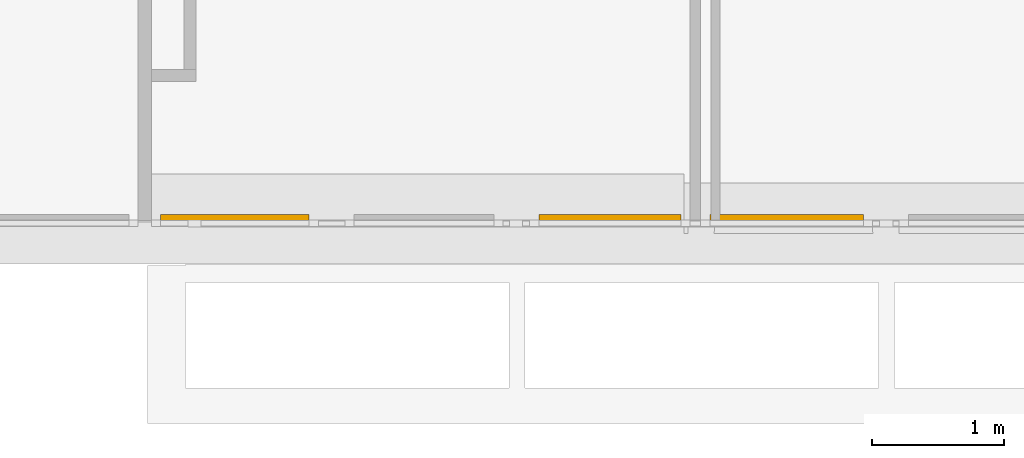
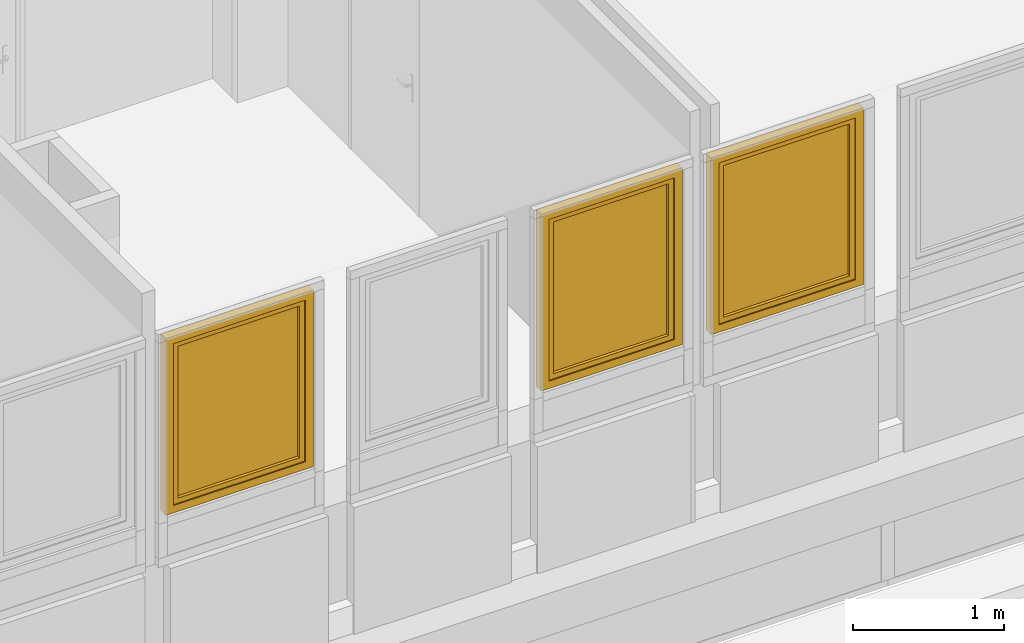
# One storey, part 90 of 97: 3 windows, 3 elements without a shape of their own.
"""IFC4 building model written with IfcOpenShell, lengths in metres."""

from ifc_helpers import new_model, entity, si_unit, converted_unit, derived_unit, direction, frame, origin, place, context, subcontext, project, spatial, polygons, source, transform, mapped, material, material_list, constituent, constituent_set, type_object, type_shapes, element, aggregate, save


model = new_model("IFC4")

# Units and contexts
model_context = context("Model", 3, precision=1e-05, world=origin(), true_north=direction((6.12303176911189e-17, 1.0)))
body_context = subcontext(model_context, "Body", "Model", "MODEL_VIEW")
ifc_project = project(units=[si_unit("LENGTHUNIT", "METRE"), si_unit("AREAUNIT", "SQUARE_METRE"), si_unit("VOLUMEUNIT", "CUBIC_METRE"), converted_unit("PLANEANGLEUNIT", "DEGREE", entity("IfcRatioMeasure", 0.0174532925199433), si_unit("PLANEANGLEUNIT", "RADIAN"), dimensions=[0, 0, 0, 0, 0, 0, 0]), si_unit("MASSUNIT", "GRAM", prefix="KILO"), derived_unit("MASSDENSITYUNIT", [(si_unit("MASSUNIT", "GRAM", prefix="KILO"), 1), (si_unit("LENGTHUNIT", "METRE"), -3)]), derived_unit("MOMENTOFINERTIAUNIT", [(si_unit("LENGTHUNIT", "METRE"), 4)]), si_unit("TIMEUNIT", "SECOND"), si_unit("FREQUENCYUNIT", "HERTZ"), si_unit("THERMODYNAMICTEMPERATUREUNIT", "DEGREE_CELSIUS"), derived_unit("THERMALTRANSMITTANCEUNIT", [(si_unit("MASSUNIT", "GRAM", prefix="KILO"), 1), (si_unit("THERMODYNAMICTEMPERATUREUNIT", "KELVIN"), -1), (si_unit("TIMEUNIT", "SECOND"), -3)]), derived_unit("VOLUMETRICFLOWRATEUNIT", [(si_unit("LENGTHUNIT", "METRE"), 3), (si_unit("TIMEUNIT", "SECOND"), -1)]), si_unit("ELECTRICCURRENTUNIT", "AMPERE"), si_unit("ELECTRICVOLTAGEUNIT", "VOLT"), si_unit("POWERUNIT", "WATT"), si_unit("FORCEUNIT", "NEWTON", prefix="KILO"), si_unit("ILLUMINANCEUNIT", "LUX"), si_unit("LUMINOUSFLUXUNIT", "LUMEN"), si_unit("LUMINOUSINTENSITYUNIT", "CANDELA"), derived_unit("USERDEFINED", [(si_unit("MASSUNIT", "GRAM", prefix="KILO"), -1), (si_unit("LENGTHUNIT", "METRE"), -2), (si_unit("TIMEUNIT", "SECOND"), 3), (si_unit("LUMINOUSFLUXUNIT", "LUMEN"), 1)]), derived_unit("LINEARVELOCITYUNIT", [(si_unit("LENGTHUNIT", "METRE"), 1), (si_unit("TIMEUNIT", "SECOND"), -1)]), si_unit("PRESSUREUNIT", "PASCAL"), derived_unit("USERDEFINED", [(si_unit("LENGTHUNIT", "METRE"), -2), (si_unit("MASSUNIT", "GRAM", prefix="KILO"), 1), (si_unit("TIMEUNIT", "SECOND"), -2)]), derived_unit("LINEARFORCEUNIT", [(si_unit("MASSUNIT", "GRAM", prefix="KILO"), 1), (si_unit("LENGTHUNIT", "METRE"), 1), (si_unit("TIMEUNIT", "SECOND"), -2), (si_unit("LENGTHUNIT", "METRE"), -1)]), derived_unit("PLANARFORCEUNIT", [(si_unit("MASSUNIT", "GRAM", prefix="KILO"), 1), (si_unit("LENGTHUNIT", "METRE"), 1), (si_unit("TIMEUNIT", "SECOND"), -2), (si_unit("LENGTHUNIT", "METRE"), -2)])], contexts=[model_context])

# Site, building, storey
site_placement = place(None, origin())
site = spatial("IfcSite", under=ifc_project, at=site_placement, Name="Default", CompositionType="ELEMENT")
building_placement = place(site_placement, origin())
building = spatial("IfcBuilding", under=site, at=building_placement, Name="HOTEL CONSULAIRE BOULOGNE SUR MER", CompositionType="ELEMENT")
storey_placement = place(building_placement, frame((0.0, 0.0, 3.62152697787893)))
storey = spatial("IfcBuildingStorey", under=building, at=storey_placement, Name="Niveau 1", CompositionType="ELEMENT", Elevation=3.62152697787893)

# Curtain wall, window
curtain_wall_type = type_object("IfcCurtainWallType", Name="Mur-rideau:Simple panneau", PredefinedType="NOTDEFINED")
curtain_wall_1_placement = place(storey_placement, frame((0.0, 0.0, -3.62152697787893)))
curtain_wall_1 = element("IfcCurtainWall", 1, at=curtain_wall_1_placement, inside=storey, type_object=curtain_wall_type, Name="Mur-rideau:Simple panneau", ObjectType="Mur-rideau:Simple panneau", PredefinedType="NOTDEFINED")
ifc_material_1 = material(Name="PVC - Blanc", Category="Plastique")
ifc_constituent_1 = constituent(ifc_material_1, Name="PVC - Blanc", Category="Matériaux")
ifc_material_2 = material(Name="Fenêtre - Vitrage", Category="Verre")
ifc_constituent_2 = constituent(ifc_material_2, Name="Fenêtre - Vitrage", Category="Matériaux")
ifc_constituent_set_1 = constituent_set(constituents=[ifc_constituent_1, ifc_constituent_2], Name="MaterialConstituentSet")
ifc_material_list_1 = material_list([ifc_material_1, ifc_material_1])
window_type_1 = type_object("IfcWindowType", Name="MR 1 Vantail:MR 1 Vantail", PartitioningType="NOTDEFINED", PredefinedType="WINDOW", material=ifc_material_list_1)
shared_shape_1 = source(origin(), body_context, "Body", "Tessellation", [
    polygons([(-0.493507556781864, -0.0492408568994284, 0.472033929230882), (-0.482215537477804, -0.0492408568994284, 0.472033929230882), (-0.480827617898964, -0.0492408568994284, 0.470646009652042), (-0.480827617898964, -0.0492408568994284, 0.459332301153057), (-0.482193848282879, -0.0492408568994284, 0.457966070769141), (-0.493529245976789, -0.0492408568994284, 0.457966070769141), (-0.494895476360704, -0.0492408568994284, 0.459332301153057), (-0.494895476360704, -0.0492408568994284, 0.470646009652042), (-0.494895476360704, -0.0615795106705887, 0.470646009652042), (-0.493507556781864, -0.0621544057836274, 0.472033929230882), (-0.494895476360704, -0.0568932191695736, 0.459332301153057), (-0.494895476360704, -0.063573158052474, 0.452652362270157), (-0.494895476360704, -0.0635731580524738, 0.370000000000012), (-0.494895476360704, -0.0748868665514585, 0.370000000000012), (-0.494895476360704, -0.0748868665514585, 0.457338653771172), (-0.493529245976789, -0.0563273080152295, 0.457966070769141), (-0.482193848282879, -0.0563273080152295, 0.457966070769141), (-0.480827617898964, -0.0568932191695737, 0.459332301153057), (-0.480827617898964, -0.0615795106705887, 0.470646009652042), (-0.480827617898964, -0.0748868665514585, 0.457338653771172), (-0.480827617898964, -0.0748868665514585, 0.370000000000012), (-0.480827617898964, -0.0635731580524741, 0.370000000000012), (-0.480827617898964, -0.0635731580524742, 0.452652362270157), (-0.482215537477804, -0.0621544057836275, 0.472033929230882), (-0.493507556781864, -0.0762747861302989, 0.457913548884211), (-0.493529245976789, -0.0622069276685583, 0.452086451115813), (-0.482193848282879, -0.0622069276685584, 0.452086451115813), (-0.482215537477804, -0.0762747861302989, 0.457913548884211), (-0.493507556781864, -0.0762747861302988, 0.370000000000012), (-0.493529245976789, -0.0622069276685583, 0.370000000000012), (-0.482193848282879, -0.0622069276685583, 0.370000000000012), (-0.482215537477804, -0.0762747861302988, 0.370000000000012)], [[[6, 7, 8, 1, 2, 3, 4, 5]], [[30, 26, 27, 31]], [[9, 10, 1, 8]], [[11, 12, 13, 14, 15, 9, 8, 7]], [[16, 11, 7, 6]], [[16, 6, 5, 17]], [[31, 22, 21, 32, 29, 14, 13, 30]], [[17, 5, 4, 18]], [[3, 19, 20, 21, 22, 23, 18, 4]], [[19, 3, 2, 24]], [[24, 2, 1, 10]], [[15, 25, 10, 9]], [[26, 12, 11, 16]], [[27, 26, 16, 17]], [[27, 17, 18, 23]], [[20, 19, 24, 28]], [[28, 24, 10, 25]], [[29, 25, 15, 14]], [[13, 12, 26, 30]], [[22, 31, 27, 23]], [[32, 21, 20, 28]], [[32, 28, 25, 29]]], closed=True),
    polygons([(-0.494861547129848, -0.0432408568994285, 0.490000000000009), (-0.480861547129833, -0.0432408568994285, 0.490000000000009), (-0.475861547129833, -0.0432408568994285, 0.48500000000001), (-0.475861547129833, -0.0432408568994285, 0.414999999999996), (-0.48086154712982, -0.0432408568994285, 0.410000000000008), (-0.494861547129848, -0.0432408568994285, 0.410000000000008), (-0.499861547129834, -0.0432408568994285, 0.414999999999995), (-0.499861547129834, -0.0432408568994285, 0.48500000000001), (-0.494861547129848, -0.0492408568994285, 0.490000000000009), (-0.499861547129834, -0.0492408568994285, 0.48500000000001), (-0.499861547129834, -0.0492408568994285, 0.414999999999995), (-0.494861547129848, -0.0492408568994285, 0.410000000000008), (-0.48086154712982, -0.0492408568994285, 0.410000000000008), (-0.475861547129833, -0.0492408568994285, 0.414999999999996), (-0.475861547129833, -0.0492408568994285, 0.48500000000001), (-0.480861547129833, -0.0492408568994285, 0.490000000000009)], [[[2, 3, 4, 5, 6, 7, 8, 1]], [[13, 14, 15, 16, 9, 10, 11, 12]], [[9, 1, 8, 10]], [[10, 8, 7, 11]], [[11, 7, 6, 12]], [[12, 6, 5, 13]], [[13, 5, 4, 14]], [[15, 14, 4, 3]], [[15, 3, 2, 16]], [[16, 2, 1, 9]]], closed=True),
    polygons([(0.462861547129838, -0.0192408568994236, 1.32586048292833), (-0.462861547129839, -0.0192408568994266, 1.32586048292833), (-0.462861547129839, -0.0192408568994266, 0.1), (0.462861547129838, -0.0192408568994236, 0.1), (0.462861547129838, -0.00724085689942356, 1.32586048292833), (0.462861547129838, -0.00724085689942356, 0.1), (-0.462861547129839, -0.00724085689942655, 0.1), (-0.462861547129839, -0.00724085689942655, 1.32586048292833)], [[[4, 1, 2, 3]], [[7, 8, 5, 6]], [[2, 1, 5, 8]], [[3, 2, 8, 7]], [[4, 3, 7, 6]], [[1, 4, 6, 5]]], closed=True),
    polygons([(-0.512861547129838, 0.0167591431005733, 1.37586048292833), (-0.512861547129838, -0.043240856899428, 1.37586048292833), (0.512861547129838, -0.043240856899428, 1.37586048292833), (0.512861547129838, 0.0167591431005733, 1.37586048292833), (-0.462861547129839, -0.043240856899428, 1.32586048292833), (-0.462861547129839, 0.0167591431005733, 1.32586048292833), (0.462861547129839, 0.0167591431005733, 1.32586048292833), (0.462861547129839, -0.043240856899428, 1.32586048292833), (0.512861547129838, -0.043240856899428, 0.0500000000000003), (0.512861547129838, 0.0167591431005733, 0.0500000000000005), (0.462861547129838, 0.0167591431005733, 0.1), (0.462861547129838, -0.043240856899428, 0.1), (-0.512861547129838, -0.043240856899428, 0.0500000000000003), (-0.512861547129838, 0.0167591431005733, 0.0500000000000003), (-0.462861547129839, 0.0167591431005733, 0.1), (-0.462861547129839, -0.043240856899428, 0.1)], [[[1, 2, 3, 4]], [[12, 11, 15, 16]], [[5, 6, 7, 8]], [[10, 9, 13, 14]], [[4, 3, 9, 10]], [[16, 15, 6, 5]], [[8, 7, 11, 12]], [[14, 13, 2, 1]], [[9, 3, 2, 13], [16, 5, 8, 12]], [[14, 1, 4, 10], [11, 7, 6, 15]]], closed=True),
    polygons([(-0.502861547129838, 0.016759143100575, 1.36586048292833), (-0.502861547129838, 0.0267591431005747, 1.36586048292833), (0.502861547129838, 0.0267591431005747, 1.36586048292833), (0.502861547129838, 0.016759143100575, 1.36586048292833), (-0.512861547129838, -0.0432408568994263, 1.37586048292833), (-0.512861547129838, 0.016759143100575, 1.37586048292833), (0.512861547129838, 0.016759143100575, 1.37586048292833), (0.512861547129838, -0.0432408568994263, 1.37586048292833), (-0.562861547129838, 0.0267591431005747, 1.42586048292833), (-0.562861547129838, -0.0432408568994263, 1.42586048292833), (0.562861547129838, -0.0432408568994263, 1.42586048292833), (0.562861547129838, 0.0267591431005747, 1.42586048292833), (0.502861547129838, 0.0267591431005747, 0.0600000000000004), (0.502861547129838, 0.016759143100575, 0.0600000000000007), (0.512861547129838, 0.016759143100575, 0.0500000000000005), (0.512861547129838, -0.0432408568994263, 0.0500000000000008), (0.562861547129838, -0.0432408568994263, 5.41433564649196e-16), (0.562861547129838, 0.0267591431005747, 5.41433564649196e-16), (-0.502861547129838, 0.0267591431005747, 0.0600000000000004), (-0.502861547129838, 0.016759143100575, 0.0600000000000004), (-0.512861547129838, 0.016759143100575, 0.0500000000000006), (-0.512861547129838, -0.0432408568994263, 0.0500000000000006), (-0.562861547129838, -0.0432408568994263, 5.41433564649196e-16), (-0.562861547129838, 0.0267591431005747, 5.41433564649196e-16)], [[[1, 2, 3, 4]], [[5, 6, 7, 8]], [[18, 17, 23, 24]], [[9, 10, 11, 12]], [[14, 13, 19, 20]], [[16, 15, 21, 22]], [[4, 3, 13, 14]], [[8, 7, 15, 16]], [[24, 23, 10, 9]], [[12, 11, 17, 18]], [[20, 19, 2, 1]], [[22, 21, 6, 5]], [[24, 9, 12, 18], [13, 3, 2, 19]], [[15, 7, 6, 21], [20, 1, 4, 14]], [[17, 11, 10, 23], [22, 5, 8, 16]]], closed=True),
])
type_shapes(window_type_1, [shared_shape_1])
window_1_placement = place(curtain_wall_1_placement, frame((-4.77428152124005, -29.5501047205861, 4.79613951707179), z_axis=(0.0, 0.0, 1.0), x_axis=(-1.0, 0.0, 0.0)))
window_1 = element("IfcWindow", 2, at=window_1_placement, type_object=window_type_1, material=ifc_constituent_set_1, Name="MR 1 Vantail:MR 1 Vantail", ObjectType="MR 1 Vantail:MR 1 Vantail", OverallHeight=1.42586048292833, OverallWidth=1.12572309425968, PartitioningType="NOTDEFINED", PredefinedType="WINDOW", context=body_context, shape_type="MappedRepresentation", body=[
    mapped(shared_shape_1, transform((0.0, 0.0, 0.0), scale=1.0)),
])
aggregate(curtain_wall_1, [window_1])

curtain_wall_2_placement = place(storey_placement, frame((0.0, 0.0, -3.62152697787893)))
curtain_wall_2 = element("IfcCurtainWall", 3, at=curtain_wall_2_placement, inside=storey, type_object=curtain_wall_type, Name="Mur-rideau:Simple panneau", ObjectType="Mur-rideau:Simple panneau", PredefinedType="NOTDEFINED")
ifc_constituent_3 = constituent(ifc_material_1, Name="PVC - Blanc", Category="Matériaux")
ifc_constituent_4 = constituent(ifc_material_2, Name="Fenêtre - Vitrage", Category="Matériaux")
ifc_constituent_set_2 = constituent_set(constituents=[ifc_constituent_3, ifc_constituent_4], Name="MaterialConstituentSet")
ifc_material_list_2 = material_list([ifc_material_1, ifc_material_1])
window_type_2 = type_object("IfcWindowType", Name="MR 1 Vantail:MR 1 Vantail", PartitioningType="NOTDEFINED", PredefinedType="WINDOW", material=ifc_material_list_2)
shared_shape_2 = source(origin(), body_context, "Body", "Tessellation", [
    polygons([(-0.469283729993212, -0.0492408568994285, 0.472033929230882), (-0.457991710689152, -0.0492408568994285, 0.472033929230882), (-0.456603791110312, -0.0492408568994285, 0.470646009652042), (-0.456603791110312, -0.0492408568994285, 0.459332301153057), (-0.457970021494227, -0.0492408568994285, 0.457966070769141), (-0.469305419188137, -0.0492408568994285, 0.457966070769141), (-0.470671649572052, -0.0492408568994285, 0.459332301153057), (-0.470671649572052, -0.0492408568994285, 0.470646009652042), (-0.470671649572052, -0.0615795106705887, 0.470646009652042), (-0.469283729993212, -0.0621544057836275, 0.472033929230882), (-0.470671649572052, -0.0568932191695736, 0.459332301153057), (-0.470671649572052, -0.063573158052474, 0.452652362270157), (-0.470671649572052, -0.0635731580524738, 0.370000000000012), (-0.470671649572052, -0.0748868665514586, 0.370000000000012), (-0.470671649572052, -0.0748868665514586, 0.457338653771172), (-0.469305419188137, -0.0563273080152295, 0.457966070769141), (-0.457970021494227, -0.0563273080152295, 0.457966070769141), (-0.456603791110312, -0.0568932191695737, 0.459332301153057), (-0.456603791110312, -0.0615795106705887, 0.470646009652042), (-0.456603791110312, -0.0748868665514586, 0.457338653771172), (-0.456603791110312, -0.0748868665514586, 0.370000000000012), (-0.456603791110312, -0.0635731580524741, 0.370000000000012), (-0.456603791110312, -0.0635731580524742, 0.452652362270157), (-0.457991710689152, -0.0621544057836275, 0.472033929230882), (-0.469283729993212, -0.0762747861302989, 0.457913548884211), (-0.469305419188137, -0.0622069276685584, 0.452086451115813), (-0.457970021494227, -0.0622069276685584, 0.452086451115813), (-0.457991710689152, -0.0762747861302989, 0.457913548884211), (-0.469283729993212, -0.0762747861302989, 0.370000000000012), (-0.469305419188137, -0.0622069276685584, 0.370000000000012), (-0.457970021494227, -0.0622069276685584, 0.370000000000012), (-0.457991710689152, -0.0762747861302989, 0.370000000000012)], [[[6, 7, 8, 1, 2, 3, 4, 5]], [[30, 26, 27, 31]], [[9, 10, 1, 8]], [[11, 12, 13, 14, 15, 9, 8, 7]], [[16, 11, 7, 6]], [[16, 6, 5, 17]], [[31, 22, 21, 32, 29, 14, 13, 30]], [[17, 5, 4, 18]], [[3, 19, 20, 21, 22, 23, 18, 4]], [[19, 3, 2, 24]], [[24, 2, 1, 10]], [[15, 25, 10, 9]], [[26, 12, 11, 16]], [[27, 26, 16, 17]], [[27, 17, 18, 23]], [[20, 19, 24, 28]], [[28, 24, 10, 25]], [[29, 25, 15, 14]], [[13, 12, 26, 30]], [[22, 31, 27, 23]], [[32, 21, 20, 28]], [[32, 28, 25, 29]]], closed=True),
    polygons([(-0.470637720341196, -0.0432408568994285, 0.490000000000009), (-0.456637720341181, -0.0432408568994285, 0.490000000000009), (-0.451637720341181, -0.0432408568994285, 0.48500000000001), (-0.451637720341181, -0.0432408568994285, 0.414999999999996), (-0.456637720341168, -0.0432408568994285, 0.410000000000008), (-0.470637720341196, -0.0432408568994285, 0.410000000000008), (-0.475637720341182, -0.0432408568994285, 0.414999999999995), (-0.475637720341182, -0.0432408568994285, 0.48500000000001), (-0.470637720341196, -0.0492408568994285, 0.490000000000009), (-0.475637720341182, -0.0492408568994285, 0.48500000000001), (-0.475637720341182, -0.0492408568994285, 0.414999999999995), (-0.470637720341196, -0.0492408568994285, 0.410000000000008), (-0.456637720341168, -0.0492408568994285, 0.410000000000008), (-0.451637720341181, -0.0492408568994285, 0.414999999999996), (-0.451637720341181, -0.0492408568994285, 0.48500000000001), (-0.456637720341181, -0.0492408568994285, 0.490000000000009)], [[[2, 3, 4, 5, 6, 7, 8, 1]], [[13, 14, 15, 16, 9, 10, 11, 12]], [[9, 1, 8, 10]], [[10, 8, 7, 11]], [[11, 7, 6, 12]], [[12, 6, 5, 13]], [[13, 5, 4, 14]], [[15, 14, 4, 3]], [[15, 3, 2, 16]], [[16, 2, 1, 9]]], closed=True),
    polygons([(0.438637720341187, -0.0192408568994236, 1.32586048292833), (-0.438637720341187, -0.0192408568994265, 1.32586048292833), (-0.438637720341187, -0.0192408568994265, 0.0999999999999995), (0.438637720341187, -0.0192408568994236, 0.0999999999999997), (0.438637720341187, -0.00724085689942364, 1.32586048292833), (0.438637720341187, -0.00724085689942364, 0.0999999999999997), (-0.438637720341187, -0.00724085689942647, 0.0999999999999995), (-0.438637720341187, -0.00724085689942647, 1.32586048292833)], [[[4, 1, 2, 3]], [[7, 8, 5, 6]], [[2, 1, 5, 8]], [[3, 2, 8, 7]], [[4, 3, 7, 6]], [[1, 4, 6, 5]]], closed=True),
    polygons([(-0.488637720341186, 0.0167591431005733, 1.37586048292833), (-0.488637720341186, -0.043240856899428, 1.37586048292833), (0.488637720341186, -0.043240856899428, 1.37586048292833), (0.488637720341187, 0.0167591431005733, 1.37586048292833), (-0.438637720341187, -0.043240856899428, 1.32586048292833), (-0.438637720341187, 0.0167591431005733, 1.32586048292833), (0.438637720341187, 0.0167591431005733, 1.32586048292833), (0.438637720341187, -0.043240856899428, 1.32586048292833), (0.488637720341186, -0.043240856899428, 0.0500000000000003), (0.488637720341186, 0.0167591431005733, 0.0500000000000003), (0.438637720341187, 0.0167591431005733, 0.0999999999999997), (0.438637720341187, -0.043240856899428, 0.0999999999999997), (-0.488637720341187, -0.043240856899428, 0.0500000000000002), (-0.488637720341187, 0.0167591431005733, 0.0500000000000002), (-0.438637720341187, 0.0167591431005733, 0.0999999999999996), (-0.438637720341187, -0.043240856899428, 0.0999999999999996)], [[[1, 2, 3, 4]], [[12, 11, 15, 16]], [[5, 6, 7, 8]], [[10, 9, 13, 14]], [[4, 3, 9, 10]], [[16, 15, 6, 5]], [[8, 7, 11, 12]], [[14, 13, 2, 1]], [[9, 3, 2, 13], [16, 5, 8, 12]], [[14, 1, 4, 10], [11, 7, 6, 15]]], closed=True),
    polygons([(-0.478637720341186, 0.016759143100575, 1.36586048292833), (-0.478637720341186, 0.0267591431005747, 1.36586048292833), (0.478637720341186, 0.0267591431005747, 1.36586048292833), (0.478637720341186, 0.016759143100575, 1.36586048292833), (-0.488637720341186, -0.0432408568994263, 1.37586048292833), (-0.488637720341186, 0.016759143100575, 1.37586048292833), (0.488637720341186, 0.016759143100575, 1.37586048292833), (0.488637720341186, -0.0432408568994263, 1.37586048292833), (-0.538637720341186, 0.0267591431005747, 1.42586048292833), (-0.538637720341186, -0.0432408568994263, 1.42586048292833), (0.538637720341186, -0.0432408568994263, 1.42586048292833), (0.538637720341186, 0.0267591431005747, 1.42586048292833), (0.478637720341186, 0.0267591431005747, 0.0600000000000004), (0.478637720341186, 0.016759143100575, 0.0600000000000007), (0.488637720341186, 0.016759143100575, 0.0500000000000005), (0.488637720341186, -0.0432408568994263, 0.0500000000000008), (0.538637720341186, -0.0432408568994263, 5.41433564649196e-16), (0.538637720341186, 0.0267591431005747, 5.41433564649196e-16), (-0.478637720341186, 0.0267591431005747, 0.0600000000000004), (-0.478637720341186, 0.016759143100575, 0.0600000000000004), (-0.488637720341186, 0.016759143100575, 0.0500000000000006), (-0.488637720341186, -0.0432408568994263, 0.0500000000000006), (-0.538637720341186, -0.0432408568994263, 5.41433564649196e-16), (-0.538637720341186, 0.0267591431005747, 5.41433564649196e-16)], [[[1, 2, 3, 4]], [[5, 6, 7, 8]], [[18, 17, 23, 24]], [[9, 10, 11, 12]], [[14, 13, 19, 20]], [[16, 15, 21, 22]], [[4, 3, 13, 14]], [[8, 7, 15, 16]], [[24, 23, 10, 9]], [[12, 11, 17, 18]], [[20, 19, 2, 1]], [[22, 21, 6, 5]], [[24, 9, 12, 18], [13, 3, 2, 19]], [[15, 7, 6, 21], [20, 1, 4, 14]], [[17, 11, 10, 23], [22, 5, 8, 16]]], closed=True),
])
type_shapes(window_type_2, [shared_shape_2])
window_2_placement = place(curtain_wall_2_placement, frame((-1.93278225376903, -29.5501047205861, 4.79613951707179), z_axis=(0.0, 0.0, 1.0), x_axis=(-1.0, 0.0, 0.0)))
window_2 = element("IfcWindow", 4, at=window_2_placement, type_object=window_type_2, material=ifc_constituent_set_2, Name="MR 1 Vantail:MR 1 Vantail", ObjectType="MR 1 Vantail:MR 1 Vantail", OverallHeight=1.42586048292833, OverallWidth=1.07727544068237, PartitioningType="NOTDEFINED", PredefinedType="WINDOW", context=body_context, shape_type="MappedRepresentation", body=[
    mapped(shared_shape_2, transform((0.0, 0.0, 0.0), scale=1.0)),
])
aggregate(curtain_wall_2, [window_2])

curtain_wall_3_placement = place(storey_placement, frame((0.0, 0.0, -3.62152697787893)))
curtain_wall_3 = element("IfcCurtainWall", 5, at=curtain_wall_3_placement, inside=storey, type_object=curtain_wall_type, Name="Mur-rideau:Simple panneau", ObjectType="Mur-rideau:Simple panneau", PredefinedType="NOTDEFINED")
ifc_constituent_5 = constituent(ifc_material_1, Name="PVC - Blanc", Category="Matériaux")
ifc_constituent_6 = constituent(ifc_material_2, Name="Fenêtre - Vitrage", Category="Matériaux")
ifc_constituent_set_3 = constituent_set(constituents=[ifc_constituent_5, ifc_constituent_6], Name="MaterialConstituentSet")
ifc_material_list_3 = material_list([ifc_material_1, ifc_material_1])
window_type_3 = type_object("IfcWindowType", Name="MR 1 Vantail:MR 1 Vantail", PartitioningType="NOTDEFINED", PredefinedType="WINDOW", material=ifc_material_list_3)
shared_shape_3 = source(origin(), body_context, "Body", "Tessellation", [
    polygons([(-0.512008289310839, -0.0492408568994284, 0.472033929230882), (-0.500716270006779, -0.0492408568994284, 0.472033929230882), (-0.499328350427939, -0.0492408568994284, 0.470646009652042), (-0.499328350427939, -0.0492408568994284, 0.459332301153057), (-0.500694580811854, -0.0492408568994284, 0.457966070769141), (-0.512029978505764, -0.0492408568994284, 0.457966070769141), (-0.513396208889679, -0.0492408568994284, 0.459332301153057), (-0.513396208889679, -0.0492408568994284, 0.470646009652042), (-0.513396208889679, -0.0615795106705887, 0.470646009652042), (-0.512008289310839, -0.0621544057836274, 0.472033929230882), (-0.513396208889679, -0.0568932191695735, 0.459332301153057), (-0.513396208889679, -0.0635731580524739, 0.452652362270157), (-0.513396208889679, -0.0635731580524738, 0.370000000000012), (-0.513396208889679, -0.0748868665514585, 0.370000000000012), (-0.513396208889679, -0.0748868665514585, 0.457338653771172), (-0.512029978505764, -0.0563273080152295, 0.457966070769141), (-0.500694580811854, -0.0563273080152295, 0.457966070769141), (-0.499328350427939, -0.0568932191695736, 0.459332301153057), (-0.499328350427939, -0.0615795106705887, 0.470646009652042), (-0.499328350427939, -0.0748868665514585, 0.457338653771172), (-0.499328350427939, -0.0748868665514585, 0.370000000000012), (-0.499328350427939, -0.063573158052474, 0.370000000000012), (-0.499328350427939, -0.0635731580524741, 0.452652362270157), (-0.500716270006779, -0.0621544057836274, 0.472033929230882), (-0.512008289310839, -0.0762747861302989, 0.457913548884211), (-0.512029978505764, -0.0622069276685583, 0.452086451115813), (-0.500694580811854, -0.0622069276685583, 0.452086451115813), (-0.500716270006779, -0.0762747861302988, 0.457913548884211), (-0.512008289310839, -0.0762747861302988, 0.370000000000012), (-0.512029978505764, -0.0622069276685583, 0.370000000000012), (-0.500694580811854, -0.0622069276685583, 0.370000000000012), (-0.500716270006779, -0.0762747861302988, 0.370000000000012)], [[[6, 7, 8, 1, 2, 3, 4, 5]], [[30, 26, 27, 31]], [[9, 10, 1, 8]], [[11, 12, 13, 14, 15, 9, 8, 7]], [[16, 11, 7, 6]], [[16, 6, 5, 17]], [[31, 22, 21, 32, 29, 14, 13, 30]], [[17, 5, 4, 18]], [[3, 19, 20, 21, 22, 23, 18, 4]], [[19, 3, 2, 24]], [[24, 2, 1, 10]], [[15, 25, 10, 9]], [[26, 12, 11, 16]], [[27, 26, 16, 17]], [[27, 17, 18, 23]], [[20, 19, 24, 28]], [[28, 24, 10, 25]], [[29, 25, 15, 14]], [[13, 12, 26, 30]], [[22, 31, 27, 23]], [[32, 21, 20, 28]], [[32, 28, 25, 29]]], closed=True),
    polygons([(-0.513362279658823, -0.0432408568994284, 0.490000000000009), (-0.499362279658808, -0.0432408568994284, 0.490000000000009), (-0.494362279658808, -0.0432408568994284, 0.48500000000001), (-0.494362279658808, -0.0432408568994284, 0.414999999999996), (-0.499362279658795, -0.0432408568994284, 0.410000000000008), (-0.513362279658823, -0.0432408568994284, 0.410000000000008), (-0.518362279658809, -0.0432408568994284, 0.414999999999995), (-0.518362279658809, -0.0432408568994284, 0.48500000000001), (-0.513362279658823, -0.0492408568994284, 0.490000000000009), (-0.518362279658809, -0.0492408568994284, 0.48500000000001), (-0.518362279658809, -0.0492408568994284, 0.414999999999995), (-0.513362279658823, -0.0492408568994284, 0.410000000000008), (-0.499362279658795, -0.0492408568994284, 0.410000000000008), (-0.494362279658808, -0.0492408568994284, 0.414999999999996), (-0.494362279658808, -0.0492408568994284, 0.48500000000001), (-0.499362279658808, -0.0492408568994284, 0.490000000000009)], [[[2, 3, 4, 5, 6, 7, 8, 1]], [[13, 14, 15, 16, 9, 10, 11, 12]], [[9, 1, 8, 10]], [[10, 8, 7, 11]], [[11, 7, 6, 12]], [[12, 6, 5, 13]], [[13, 5, 4, 14]], [[15, 14, 4, 3]], [[15, 3, 2, 16]], [[16, 2, 1, 9]]], closed=True),
    polygons([(0.481362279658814, -0.0192408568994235, 1.32586048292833), (-0.481362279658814, -0.0192408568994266, 1.32586048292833), (-0.481362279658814, -0.0192408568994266, 0.0999999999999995), (0.481362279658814, -0.0192408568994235, 0.0999999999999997), (0.481362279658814, -0.0072408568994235, 1.32586048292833), (0.481362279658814, -0.0072408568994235, 0.0999999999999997), (-0.481362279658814, -0.00724085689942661, 0.0999999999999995), (-0.481362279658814, -0.00724085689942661, 1.32586048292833)], [[[4, 1, 2, 3]], [[7, 8, 5, 6]], [[2, 1, 5, 8]], [[3, 2, 8, 7]], [[4, 3, 7, 6]], [[1, 4, 6, 5]]], closed=True),
    polygons([(-0.531362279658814, 0.0167591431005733, 1.37586048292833), (-0.531362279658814, -0.043240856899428, 1.37586048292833), (0.531362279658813, -0.043240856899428, 1.37586048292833), (0.531362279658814, 0.0167591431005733, 1.37586048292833), (-0.481362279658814, -0.043240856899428, 1.32586048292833), (-0.481362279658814, 0.0167591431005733, 1.32586048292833), (0.481362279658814, 0.0167591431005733, 1.32586048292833), (0.481362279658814, -0.043240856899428, 1.32586048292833), (0.531362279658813, -0.043240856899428, 0.0500000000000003), (0.531362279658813, 0.0167591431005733, 0.0500000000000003), (0.481362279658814, 0.0167591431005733, 0.0999999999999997), (0.481362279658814, -0.043240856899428, 0.0999999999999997), (-0.531362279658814, -0.043240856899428, 0.0500000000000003), (-0.531362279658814, 0.0167591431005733, 0.0500000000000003), (-0.481362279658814, 0.0167591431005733, 0.0999999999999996), (-0.481362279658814, -0.043240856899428, 0.0999999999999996)], [[[1, 2, 3, 4]], [[12, 11, 15, 16]], [[5, 6, 7, 8]], [[10, 9, 13, 14]], [[4, 3, 9, 10]], [[16, 15, 6, 5]], [[8, 7, 11, 12]], [[14, 13, 2, 1]], [[9, 3, 2, 13], [16, 5, 8, 12]], [[14, 1, 4, 10], [11, 7, 6, 15]]], closed=True),
    polygons([(-0.521362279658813, 0.016759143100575, 1.36586048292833), (-0.521362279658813, 0.0267591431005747, 1.36586048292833), (0.521362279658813, 0.0267591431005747, 1.36586048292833), (0.521362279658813, 0.016759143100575, 1.36586048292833), (-0.531362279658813, -0.0432408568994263, 1.37586048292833), (-0.531362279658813, 0.016759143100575, 1.37586048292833), (0.531362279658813, 0.016759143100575, 1.37586048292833), (0.531362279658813, -0.0432408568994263, 1.37586048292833), (-0.581362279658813, 0.0267591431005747, 1.42586048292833), (-0.581362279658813, -0.0432408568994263, 1.42586048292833), (0.581362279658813, -0.0432408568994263, 1.42586048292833), (0.581362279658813, 0.0267591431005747, 1.42586048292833), (0.521362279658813, 0.0267591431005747, 0.0600000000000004), (0.521362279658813, 0.016759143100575, 0.0600000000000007), (0.531362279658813, 0.016759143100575, 0.0500000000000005), (0.531362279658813, -0.0432408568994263, 0.0500000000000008), (0.581362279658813, -0.0432408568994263, 5.41433564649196e-16), (0.581362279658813, 0.0267591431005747, 5.41433564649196e-16), (-0.521362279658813, 0.0267591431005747, 0.0600000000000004), (-0.521362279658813, 0.016759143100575, 0.0600000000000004), (-0.531362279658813, 0.016759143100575, 0.0500000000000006), (-0.531362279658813, -0.0432408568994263, 0.0500000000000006), (-0.581362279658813, -0.0432408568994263, 5.41433564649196e-16), (-0.581362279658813, 0.0267591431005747, 5.41433564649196e-16)], [[[1, 2, 3, 4]], [[5, 6, 7, 8]], [[18, 17, 23, 24]], [[9, 10, 11, 12]], [[14, 13, 19, 20]], [[16, 15, 21, 22]], [[4, 3, 13, 14]], [[8, 7, 15, 16]], [[24, 23, 10, 9]], [[12, 11, 17, 18]], [[20, 19, 2, 1]], [[22, 21, 6, 5]], [[24, 9, 12, 18], [13, 3, 2, 19]], [[15, 7, 6, 21], [20, 1, 4, 14]], [[17, 11, 10, 23], [22, 5, 8, 16]]], closed=True),
])
type_shapes(window_type_3, [shared_shape_3])
window_3_placement = place(curtain_wall_3_placement, frame((-0.592782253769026, -29.5501047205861, 4.79613951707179), z_axis=(0.0, 0.0, 1.0), x_axis=(-1.0, 0.0, 0.0)))
window_3 = element("IfcWindow", 6, at=window_3_placement, type_object=window_type_3, material=ifc_constituent_set_3, Name="MR 1 Vantail:MR 1 Vantail", ObjectType="MR 1 Vantail:MR 1 Vantail", OverallHeight=1.42586048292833, OverallWidth=1.16272455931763, PartitioningType="NOTDEFINED", PredefinedType="WINDOW", context=body_context, shape_type="MappedRepresentation", body=[
    mapped(shared_shape_3, transform((0.0, 0.0, 0.0), scale=1.0)),
])
aggregate(curtain_wall_3, [window_3])

save(model, "model.ifc")
